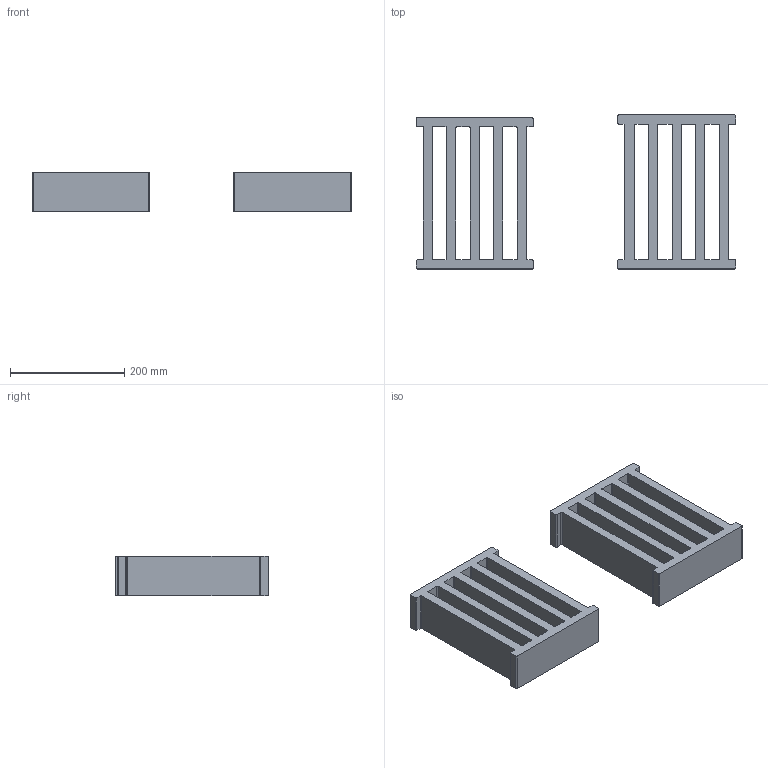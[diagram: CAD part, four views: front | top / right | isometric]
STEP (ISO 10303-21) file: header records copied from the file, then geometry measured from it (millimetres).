
FILE_DESCRIPTION(/* description */ (''),/* implementation_level */ '2;1');
FILE_NAME(/* name */ 'EMPURIES_FERRES_4FORATS',/* time_stamp */ '2023-11-02T16:01:55+01:00',/* author */ (''),/* organization */ (''),/* preprocessor_version */ 'ST-DEVELOPER v16.5',/* originating_system */ 'Rhino 7.15',/* authorisation */ '');
FILE_SCHEMA (('AUTOMOTIVE_DESIGN'));
Length unit declared in the file: millimetre
Products named in the file (1): Document
Bounding box: 560.05 x 270 x 70 mm (x, y, z)
Volume: 3543455.8 mm3; surface area: 530795.7 mm2
Topology: 2 solids, 2 shells, 116 faces, 336 edges, 224 vertices
Faces by surface type: plane 60, cylinder 28, bspline 28
Entity records: 3299 total; most frequent: CARTESIAN_POINT 1378, ORIENTED_EDGE 672, EDGE_CURVE 336, VERTEX_POINT 224, EDGE_LOOP 132, ADVANCED_FACE 116, FACE_OUTER_BOUND 116, DIRECTION 92
